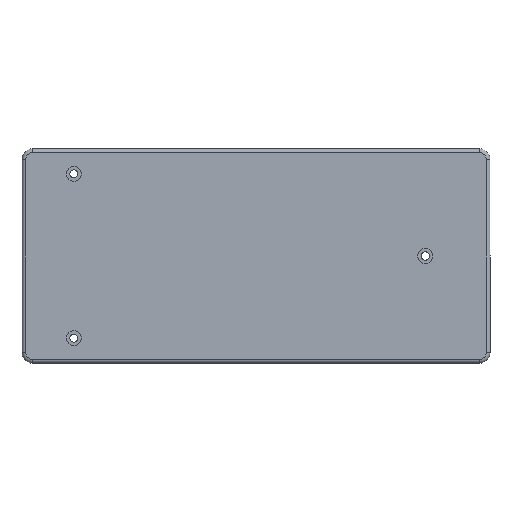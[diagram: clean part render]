
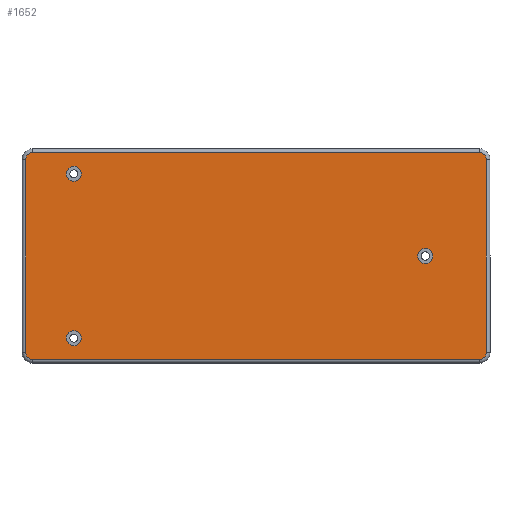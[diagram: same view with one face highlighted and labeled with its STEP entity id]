
A CAD part, front view. The second image highlights one B-rep face of the part: STEP entity #1652.
In plain terms, the highlighted planar face has unit normal (0, -1, 0).
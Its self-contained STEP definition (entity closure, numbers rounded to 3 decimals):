
#10 = ORIENTED_EDGE ( 'NONE', *, *, #564, .T. ) ;
#18 = AXIS2_PLACEMENT_3D ( 'NONE', #977, #120, #1294 ) ;
#70 = DIRECTION ( 'NONE',  ( 0., 0., -1. ) ) ;
#72 = DIRECTION ( 'NONE',  ( 0., -1., 0. ) ) ;
#73 = CARTESIAN_POINT ( 'NONE',  ( -51., -22., -23. ) ) ;
#75 = CIRCLE ( 'NONE', #18, 2.1 ) ;
#80 = VERTEX_POINT ( 'NONE', #1966 ) ;
#81 = VERTEX_POINT ( 'NONE', #812 ) ;
#93 = AXIS2_PLACEMENT_3D ( 'NONE', #1564, #1115, #815 ) ;
#108 = CARTESIAN_POINT ( 'NONE',  ( -62.5, -22., -27. ) ) ;
#120 = DIRECTION ( 'NONE',  ( 0., -1., 0. ) ) ;
#123 = ORIENTED_EDGE ( 'NONE', *, *, #274, .F. ) ;
#133 = EDGE_CURVE ( 'NONE', #1400, #81, #1826, .T. ) ;
#153 = DIRECTION ( 'NONE',  ( 0., -1., 0. ) ) ;
#155 = DIRECTION ( 'NONE',  ( 0., 0., -1. ) ) ;
#165 = CIRCLE ( 'NONE', #859, 2.1 ) ;
#178 = DIRECTION ( 'NONE',  ( 0., -1., 0. ) ) ;
#196 = CARTESIAN_POINT ( 'NONE',  ( -51., -22., -23. ) ) ;
#203 = VERTEX_POINT ( 'NONE', #367 ) ;
#210 = CIRCLE ( 'NONE', #410, 2. ) ;
#232 = CARTESIAN_POINT ( 'NONE',  ( -51., -22., 20.9 ) ) ;
#252 = VERTEX_POINT ( 'NONE', #232 ) ;
#274 = EDGE_CURVE ( 'NONE', #203, #1464, #776, .T. ) ;
#345 = VERTEX_POINT ( 'NONE', #769 ) ;
#367 = CARTESIAN_POINT ( 'NONE',  ( -51., -22., -20.9 ) ) ;
#377 = CARTESIAN_POINT ( 'NONE',  ( 47.4, -22., 0. ) ) ;
#410 = AXIS2_PLACEMENT_3D ( 'NONE', #1482, #1440, #1431 ) ;
#431 = DIRECTION ( 'NONE',  ( 0., 0., -1. ) ) ;
#457 = ORIENTED_EDGE ( 'NONE', *, *, #2171, .F. ) ;
#467 = EDGE_CURVE ( 'NONE', #81, #1031, #1178, .T. ) ;
#489 = DIRECTION ( 'NONE',  ( 1., 0., 0. ) ) ;
#495 = VECTOR ( 'NONE', #489, 1000. ) ;
#496 = VECTOR ( 'NONE', #712, 1000. ) ;
#500 = AXIS2_PLACEMENT_3D ( 'NONE', #1330, #153, #1792 ) ;
#513 = EDGE_CURVE ( 'NONE', #2192, #1110, #929, .T. ) ;
#536 = CARTESIAN_POINT ( 'NONE',  ( -64.5, -22., 27. ) ) ;
#557 = CARTESIAN_POINT ( 'NONE',  ( 47.4, -22., 0. ) ) ;
#564 = EDGE_CURVE ( 'NONE', #971, #1344, #774, .T. ) ;
#585 = ORIENTED_EDGE ( 'NONE', *, *, #1394, .F. ) ;
#624 = EDGE_CURVE ( 'NONE', #80, #2192, #670, .T. ) ;
#634 = EDGE_LOOP ( 'NONE', ( #1240, #457 ) ) ;
#658 = DIRECTION ( 'NONE',  ( 0., 0., -1. ) ) ;
#662 = CARTESIAN_POINT ( 'NONE',  ( -62.5, -22., -29. ) ) ;
#670 = CIRCLE ( 'NONE', #937, 2. ) ;
#680 = CARTESIAN_POINT ( 'NONE',  ( -64.5, -22., 27. ) ) ;
#684 = ORIENTED_EDGE ( 'NONE', *, *, #1545, .T. ) ;
#712 = DIRECTION ( 'NONE',  ( 0., 0., 1. ) ) ;
#732 = CARTESIAN_POINT ( 'NONE',  ( 64.5, -22., 27. ) ) ;
#756 = FACE_BOUND ( 'NONE', #1495, .T. ) ;
#769 = CARTESIAN_POINT ( 'NONE',  ( -51., -22., 25.1 ) ) ;
#774 = CIRCLE ( 'NONE', #500, 2. ) ;
#776 = CIRCLE ( 'NONE', #2143, 2.1 ) ;
#785 = DIRECTION ( 'NONE',  ( 0., -1., 0. ) ) ;
#786 = ORIENTED_EDGE ( 'NONE', *, *, #624, .T. ) ;
#812 = CARTESIAN_POINT ( 'NONE',  ( 64.5, -22., 27. ) ) ;
#815 = DIRECTION ( 'NONE',  ( 0., 0., -1. ) ) ;
#820 = VERTEX_POINT ( 'NONE', #1249 ) ;
#859 = AXIS2_PLACEMENT_3D ( 'NONE', #196, #178, #155 ) ;
#868 = ORIENTED_EDGE ( 'NONE', *, *, #1709, .T. ) ;
#882 = DIRECTION ( 'NONE',  ( 0., -1., 0. ) ) ;
#892 = ORIENTED_EDGE ( 'NONE', *, *, #133, .T. ) ;
#929 = LINE ( 'NONE', #662, #495 ) ;
#937 = AXIS2_PLACEMENT_3D ( 'NONE', #108, #785, #431 ) ;
#971 = VERTEX_POINT ( 'NONE', #1014 ) ;
#977 = CARTESIAN_POINT ( 'NONE',  ( -51., -22., 23. ) ) ;
#992 = DIRECTION ( 'NONE',  ( 0., 0., -1. ) ) ;
#1010 = ORIENTED_EDGE ( 'NONE', *, *, #467, .T. ) ;
#1014 = CARTESIAN_POINT ( 'NONE',  ( -62.5, -22., 29. ) ) ;
#1028 = VECTOR ( 'NONE', #1861, 1000. ) ;
#1031 = VERTEX_POINT ( 'NONE', #1127 ) ;
#1058 = DIRECTION ( 'NONE',  ( 0., -1., 0. ) ) ;
#1092 = CARTESIAN_POINT ( 'NONE',  ( 62.5, -22., -29. ) ) ;
#1105 = VERTEX_POINT ( 'NONE', #2180 ) ;
#1110 = VERTEX_POINT ( 'NONE', #1092 ) ;
#1115 = DIRECTION ( 'NONE',  ( 0., -1., 0. ) ) ;
#1127 = CARTESIAN_POINT ( 'NONE',  ( 62.5, -22., 29. ) ) ;
#1128 = LINE ( 'NONE', #1819, #1028 ) ;
#1130 = CIRCLE ( 'NONE', #1620, 2.1 ) ;
#1178 = CIRCLE ( 'NONE', #93, 2. ) ;
#1182 = FACE_OUTER_BOUND ( 'NONE', #1338, .T. ) ;
#1189 = EDGE_CURVE ( 'NONE', #252, #345, #75, .T. ) ;
#1240 = ORIENTED_EDGE ( 'NONE', *, *, #1189, .F. ) ;
#1249 = CARTESIAN_POINT ( 'NONE',  ( 47.4, -22., -2.1 ) ) ;
#1269 = VECTOR ( 'NONE', #658, 1000. ) ;
#1294 = DIRECTION ( 'NONE',  ( 0., 0., -1. ) ) ;
#1315 = ORIENTED_EDGE ( 'NONE', *, *, #1484, .T. ) ;
#1330 = CARTESIAN_POINT ( 'NONE',  ( -62.5, -22., 27. ) ) ;
#1338 = EDGE_LOOP ( 'NONE', ( #892, #1010, #868, #10, #684, #786, #1390, #1315 ) ) ;
#1344 = VERTEX_POINT ( 'NONE', #536 ) ;
#1390 = ORIENTED_EDGE ( 'NONE', *, *, #513, .T. ) ;
#1394 = EDGE_CURVE ( 'NONE', #820, #1105, #2088, .T. ) ;
#1400 = VERTEX_POINT ( 'NONE', #1693 ) ;
#1431 = DIRECTION ( 'NONE',  ( 0., 0., -1. ) ) ;
#1440 = DIRECTION ( 'NONE',  ( 0., -1., 0. ) ) ;
#1464 = VERTEX_POINT ( 'NONE', #2008 ) ;
#1482 = CARTESIAN_POINT ( 'NONE',  ( 62.5, -22., -27. ) ) ;
#1484 = EDGE_CURVE ( 'NONE', #1110, #1400, #210, .T. ) ;
#1495 = EDGE_LOOP ( 'NONE', ( #585, #1988 ) ) ;
#1545 = EDGE_CURVE ( 'NONE', #1344, #80, #1674, .T. ) ;
#1564 = CARTESIAN_POINT ( 'NONE',  ( 62.5, -22., 27. ) ) ;
#1611 = AXIS2_PLACEMENT_3D ( 'NONE', #377, #2207, #2209 ) ;
#1620 = AXIS2_PLACEMENT_3D ( 'NONE', #2044, #2040, #2028 ) ;
#1626 = EDGE_CURVE ( 'NONE', #1105, #820, #1684, .T. ) ;
#1628 = ORIENTED_EDGE ( 'NONE', *, *, #2069, .F. ) ;
#1652 = ADVANCED_FACE ( 'NONE', ( #756, #1742, #2126, #1182 ), #2142, .T. ) ;
#1674 = LINE ( 'NONE', #680, #1269 ) ;
#1684 = CIRCLE ( 'NONE', #1611, 2.1 ) ;
#1693 = CARTESIAN_POINT ( 'NONE',  ( 64.5, -22., -27. ) ) ;
#1709 = EDGE_CURVE ( 'NONE', #1031, #971, #1128, .T. ) ;
#1742 = FACE_BOUND ( 'NONE', #1807, .T. ) ;
#1785 = AXIS2_PLACEMENT_3D ( 'NONE', #557, #1058, #992 ) ;
#1792 = DIRECTION ( 'NONE',  ( 0., 0., -1. ) ) ;
#1807 = EDGE_LOOP ( 'NONE', ( #1628, #123 ) ) ;
#1819 = CARTESIAN_POINT ( 'NONE',  ( -62.5, -22., 29. ) ) ;
#1826 = LINE ( 'NONE', #732, #496 ) ;
#1861 = DIRECTION ( 'NONE',  ( -1., 0., 0. ) ) ;
#1955 = CARTESIAN_POINT ( 'NONE',  ( -62.5, -22., -29. ) ) ;
#1966 = CARTESIAN_POINT ( 'NONE',  ( -64.5, -22., -27. ) ) ;
#1985 = AXIS2_PLACEMENT_3D ( 'NONE', #2120, #882, #2107 ) ;
#1988 = ORIENTED_EDGE ( 'NONE', *, *, #1626, .F. ) ;
#2008 = CARTESIAN_POINT ( 'NONE',  ( -51., -22., -25.1 ) ) ;
#2028 = DIRECTION ( 'NONE',  ( 0., 0., -1. ) ) ;
#2040 = DIRECTION ( 'NONE',  ( 0., -1., 0. ) ) ;
#2044 = CARTESIAN_POINT ( 'NONE',  ( -51., -22., 23. ) ) ;
#2069 = EDGE_CURVE ( 'NONE', #1464, #203, #165, .T. ) ;
#2088 = CIRCLE ( 'NONE', #1785, 2.1 ) ;
#2107 = DIRECTION ( 'NONE',  ( 0., 0., -1. ) ) ;
#2120 = CARTESIAN_POINT ( 'NONE',  ( -62.5, -22., 27. ) ) ;
#2126 = FACE_BOUND ( 'NONE', #634, .T. ) ;
#2142 = PLANE ( 'NONE',  #1985 ) ;
#2143 = AXIS2_PLACEMENT_3D ( 'NONE', #73, #72, #70 ) ;
#2171 = EDGE_CURVE ( 'NONE', #345, #252, #1130, .T. ) ;
#2180 = CARTESIAN_POINT ( 'NONE',  ( 47.4, -22., 2.1 ) ) ;
#2192 = VERTEX_POINT ( 'NONE', #1955 ) ;
#2207 = DIRECTION ( 'NONE',  ( 0., -1., 0. ) ) ;
#2209 = DIRECTION ( 'NONE',  ( 0., 0., -1. ) ) ;
